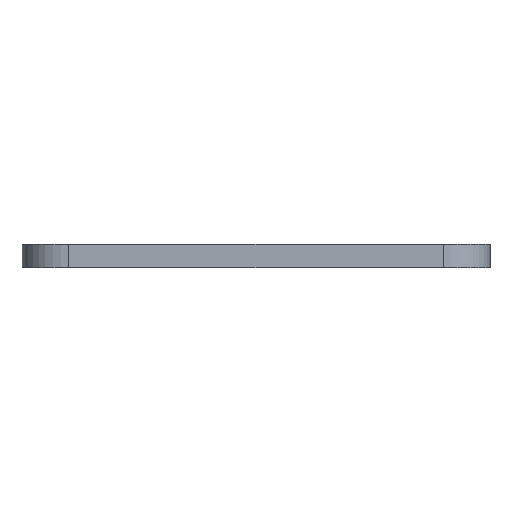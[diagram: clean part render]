
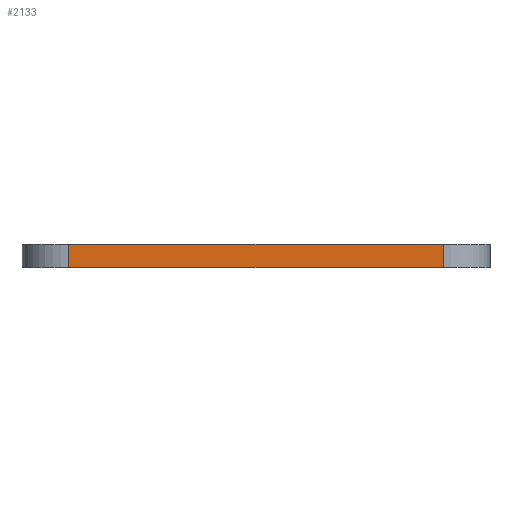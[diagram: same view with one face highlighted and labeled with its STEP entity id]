
A CAD part, left-side view. The second image highlights one B-rep face of the part: STEP entity #2133.
In plain terms, the highlighted planar face has unit normal (-1, 0, 0).
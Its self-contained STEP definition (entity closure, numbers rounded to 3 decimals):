
#268 = LINE ( 'NONE', #1949, #2483 ) ;
#339 = VECTOR ( 'NONE', #2879, 1000. ) ;
#519 = ORIENTED_EDGE ( 'NONE', *, *, #2842, .T. ) ;
#653 = VERTEX_POINT ( 'NONE', #2934 ) ;
#1103 = LINE ( 'NONE', #1748, #339 ) ;
#1329 = DIRECTION ( 'NONE',  ( 0., 0., -1. ) ) ;
#1676 = CARTESIAN_POINT ( 'NONE',  ( -50., 110., 10. ) ) ;
#1742 = ORIENTED_EDGE ( 'NONE', *, *, #2743, .F. ) ;
#1748 = CARTESIAN_POINT ( 'NONE',  ( -50., -50., 10. ) ) ;
#1886 = DIRECTION ( 'NONE',  ( 0., 0., 1. ) ) ;
#1942 = DIRECTION ( 'NONE',  ( 0., 1., 0. ) ) ;
#1949 = CARTESIAN_POINT ( 'NONE',  ( -50., -70., 10. ) ) ;
#1987 = EDGE_CURVE ( 'NONE', #2845, #2718, #268, .T. ) ;
#2056 = CARTESIAN_POINT ( 'NONE',  ( -50., 110., 0. ) ) ;
#2133 = ADVANCED_FACE ( 'NONE', ( #2882 ), #2824, .T. ) ;
#2165 = CARTESIAN_POINT ( 'NONE',  ( -50., -70., 10. ) ) ;
#2182 = CARTESIAN_POINT ( 'NONE',  ( -50., 110., 10. ) ) ;
#2188 = EDGE_LOOP ( 'NONE', ( #1742, #519, #2465, #2261 ) ) ;
#2230 = DIRECTION ( 'NONE',  ( 0., 1., 0. ) ) ;
#2246 = CARTESIAN_POINT ( 'NONE',  ( -50., -70., 0. ) ) ;
#2261 = ORIENTED_EDGE ( 'NONE', *, *, #2659, .T. ) ;
#2465 = ORIENTED_EDGE ( 'NONE', *, *, #1987, .T. ) ;
#2483 = VECTOR ( 'NONE', #2230, 1000. ) ;
#2605 = CARTESIAN_POINT ( 'NONE',  ( -50., -50., 10. ) ) ;
#2659 = EDGE_CURVE ( 'NONE', #2718, #2911, #3623, .T. ) ;
#2708 = AXIS2_PLACEMENT_3D ( 'NONE', #2165, #2728, #1886 ) ;
#2718 = VERTEX_POINT ( 'NONE', #1676 ) ;
#2728 = DIRECTION ( 'NONE',  ( -1., 0., 0. ) ) ;
#2743 = EDGE_CURVE ( 'NONE', #653, #2911, #2948, .T. ) ;
#2824 = PLANE ( 'NONE',  #2708 ) ;
#2842 = EDGE_CURVE ( 'NONE', #653, #2845, #1103, .T. ) ;
#2845 = VERTEX_POINT ( 'NONE', #2605 ) ;
#2879 = DIRECTION ( 'NONE',  ( 0., 0., 1. ) ) ;
#2882 = FACE_OUTER_BOUND ( 'NONE', #2188, .T. ) ;
#2903 = VECTOR ( 'NONE', #1329, 1000. ) ;
#2911 = VERTEX_POINT ( 'NONE', #2056 ) ;
#2934 = CARTESIAN_POINT ( 'NONE',  ( -50., -50., 0. ) ) ;
#2948 = LINE ( 'NONE', #2246, #3575 ) ;
#3575 = VECTOR ( 'NONE', #1942, 1000. ) ;
#3623 = LINE ( 'NONE', #2182, #2903 ) ;
